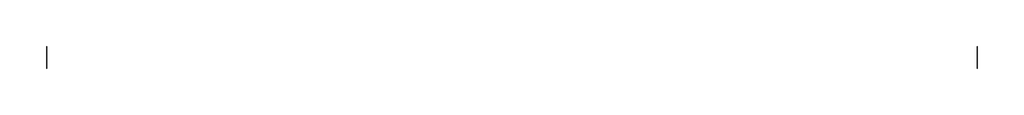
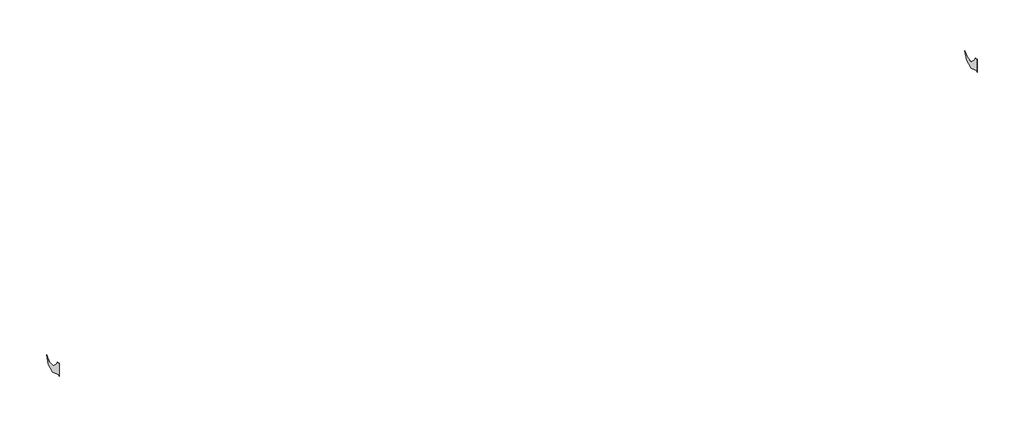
# One storey: 2 walls.
"""IFC4 building model written with IfcOpenShell, lengths in millimetres."""

from ifc_helpers import new_model, si_unit, origin, place, context, project, spatial, transform, mapped, element, save
from components import wall_13de7da4, wall_0e958e5c

model = new_model("IFC4")

# Units and contexts
model_context = context("Model", 3, world=origin())
ifc_project = project(units=[si_unit("LENGTHUNIT", "METRE", prefix="MILLI")], contexts=[model_context])

# Site, building, storey
site = spatial("IfcSite", under=ifc_project)
building = spatial("IfcBuilding", under=site)
storey = spatial("IfcBuildingStorey", under=building, Name="T/PARAEPT/RIDGE", Elevation=4300.0)

# Walls
placement = place(None, origin())
wall_shape = wall_13de7da4(model_context)
element("IfcWall", 1, ObjectType="小旗 : 小旗", at=placement, inside=storey, context=model_context, shape_type="MappedRepresentation", body=[
    mapped(wall_shape, transform((0.0, 0.0, 0.0), x_axis=(1.0, 0.0, 0.0), y_axis=(0.0, 1.0, 0.0), z_axis=(0.0, 0.0, 1.0))),
])
wall_2_shape = wall_0e958e5c(model_context)
element("IfcWall", 2, ObjectType="小旗2 : 小旗", at=placement, inside=storey, context=model_context, shape_type="MappedRepresentation", body=[
    mapped(wall_2_shape, transform((1214.0, 0.0, 0.0), x_axis=(1.0, 0.0, 0.0), y_axis=(0.0, 1.0, 0.0), z_axis=(0.0, 0.0, 1.0))),
])

save(model, "model.ifc")
